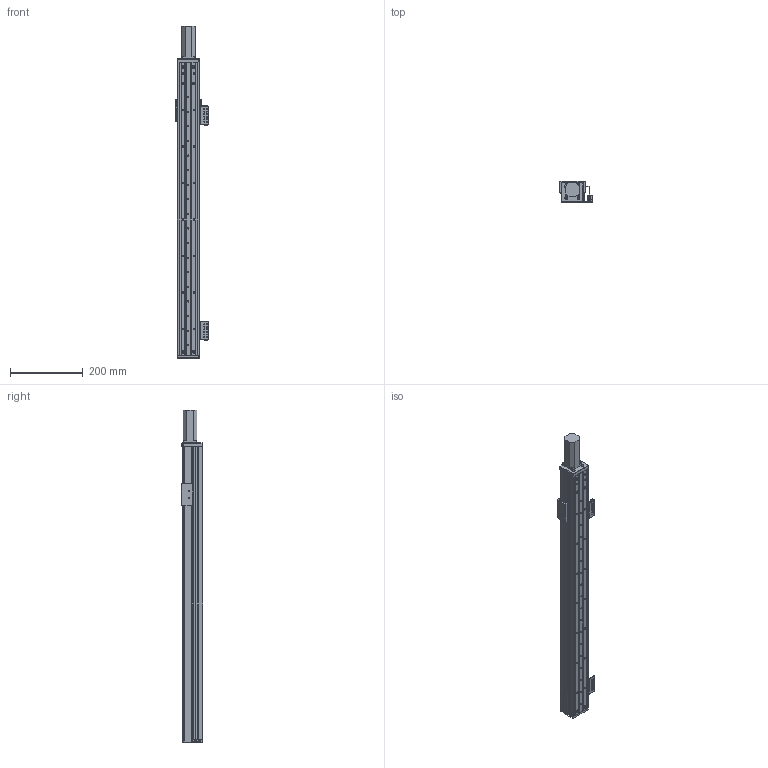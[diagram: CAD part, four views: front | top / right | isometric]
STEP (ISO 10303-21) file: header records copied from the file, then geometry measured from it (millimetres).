
FILE_DESCRIPTION (( 'STEP AP203' ), '1' );
FILE_NAME ('RY60FB-L1210-300-MK.SLDASM_600.step', '2021-02-22T08:25:39', ( '盈信电脑' ), ( '东莞市道滘镇水果街19号' ), 'SwSTEP 2.0', 'SolidWorks 2012', '' );
FILE_SCHEMA (( 'CONFIG_CONTROL_DESIGN' ));
Length unit declared in the file: millimetre
Products named in the file (14): RY60FB-674嫖萇耀輸; RY60FB-L1210-300-MK.SLDASM_600; RY80俋离覜茼え; 覜茼ん674; RY60FB綴裔啣; RY60FB-感应器674光电安装座; RY60FB-300-奻裔-MK_600; 侂狟100W; RY60FB前盖板100(M3); RY60FB-臏賑輸; RY60FB-300-菁釱-MK_600; 滅袉蝶18-10; 滅袉蝶18-20
Assembly tree (18 placements, depth 3):
  RY60FB-L1210-300-MK.SLDASM_600
    RY60FB-300-菁釱-MK_600
    RY60FB-臏賑輸
    滅袉蝶18-20  x2
    滅袉蝶18-10  x2
    RY60FB-300-奻裔-MK_600
    RY60FB前盖板100(M3)
    侂狟100W
    RY60FB綴裔啣
    RY60FB-674嫖萇耀輸
      RY60FB-感应器674光电安装座
      覜茼ん674  x2
    RY80俋离覜茼え
    RY60FB-674嫖萇耀輸
      RY60FB-感应器674光电安装座
      覜茼ん674
Bounding box: 90 x 58.5 x 910 mm (x, y, z)
Volume: 993816.1 mm3; surface area: 543505.7 mm2
Topology: 16 solids, 16 shells, 981 faces, 2710 edges, 1751 vertices
Faces by surface type: plane 474, cylinder 440, cone 67
Entity records: 27730 total; most frequent: CARTESIAN_POINT 5177, DIRECTION 4444, ORIENTED_EDGE 4320, EDGE_CURVE 2160, AXIS2_PLACEMENT_3D 1578, VERTEX_POINT 1407, VECTOR 1288, LINE 1288
